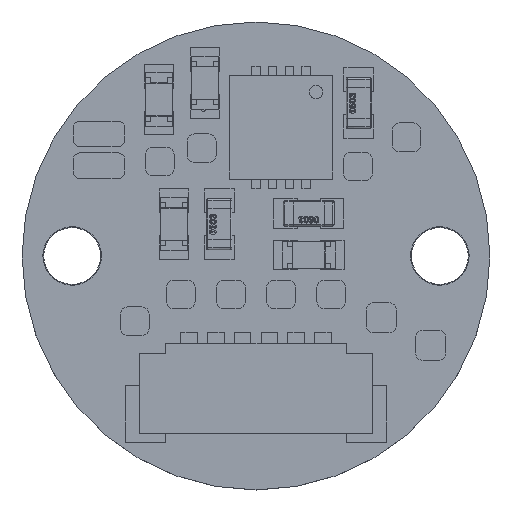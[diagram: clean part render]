
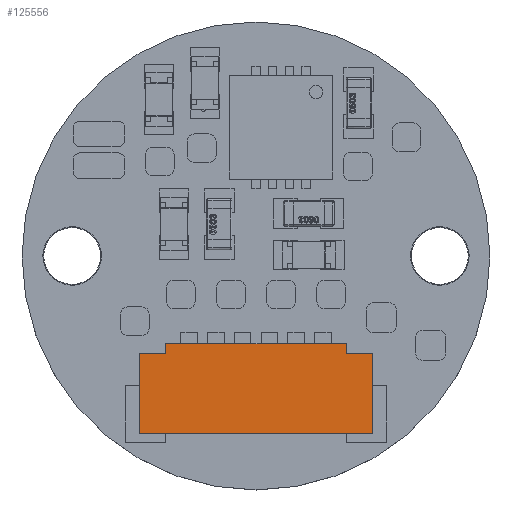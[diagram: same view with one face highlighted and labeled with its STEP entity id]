
A CAD part, top view. The second image highlights one B-rep face of the part: STEP entity #125556.
In plain terms, the highlighted planar face has unit normal (0, 0, 1).
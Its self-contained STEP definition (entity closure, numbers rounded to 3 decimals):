
#66 = DIRECTION ( 'NONE',  ( 0., 1., 0. ) ) ;
#4247 = CARTESIAN_POINT ( 'NONE',  ( 7.45, -13.875, 1.75 ) ) ;
#4322 = DIRECTION ( 'NONE',  ( 0., -1., 0. ) ) ;
#5107 = EDGE_CURVE ( 'NONE', #62237, #58807, #82916, .T. ) ;
#7402 = CARTESIAN_POINT ( 'NONE',  ( 14.45, -13.575, 1.75 ) ) ;
#8867 = CARTESIAN_POINT ( 'NONE',  ( 14.45, -13.575, 1.75 ) ) ;
#10582 = VERTEX_POINT ( 'NONE', #25018 ) ;
#13723 = CARTESIAN_POINT ( 'NONE',  ( 7.45, -13.875, 1.75 ) ) ;
#15739 = VECTOR ( 'NONE', #97182, 1000. ) ;
#25018 = CARTESIAN_POINT ( 'NONE',  ( 13.65, -13.875, 1.75 ) ) ;
#25513 = EDGE_CURVE ( 'NONE', #36888, #10582, #95767, .T. ) ;
#28658 = ORIENTED_EDGE ( 'NONE', *, *, #75448, .F. ) ;
#36888 = VERTEX_POINT ( 'NONE', #128892 ) ;
#38293 = CARTESIAN_POINT ( 'NONE',  ( 7.45, -16.275, 1.75 ) ) ;
#40313 = CARTESIAN_POINT ( 'NONE',  ( 7.45, -13.575, 1.75 ) ) ;
#42477 = CARTESIAN_POINT ( 'NONE',  ( 14.45, -13.875, 1.75 ) ) ;
#44070 = VECTOR ( 'NONE', #4322, 1000. ) ;
#44658 = CARTESIAN_POINT ( 'NONE',  ( 14.45, -16.275, 1.75 ) ) ;
#44696 = CARTESIAN_POINT ( 'NONE',  ( 8.25, -13.575, 1.75 ) ) ;
#47254 = LINE ( 'NONE', #44696, #50908 ) ;
#50908 = VECTOR ( 'NONE', #66, 1000. ) ;
#51711 = EDGE_CURVE ( 'NONE', #36888, #91141, #123534, .T. ) ;
#53384 = CARTESIAN_POINT ( 'NONE',  ( 8.25, -13.875, 1.75 ) ) ;
#54111 = DIRECTION ( 'NONE',  ( -1., 0., 0. ) ) ;
#56582 = PLANE ( 'NONE',  #96502 ) ;
#56939 = VERTEX_POINT ( 'NONE', #42477 ) ;
#58807 = VERTEX_POINT ( 'NONE', #53384 ) ;
#60387 = LINE ( 'NONE', #40313, #44070 ) ;
#62143 = VERTEX_POINT ( 'NONE', #44658 ) ;
#62237 = VERTEX_POINT ( 'NONE', #13723 ) ;
#62964 = VECTOR ( 'NONE', #100216, 1000. ) ;
#63114 = ORIENTED_EDGE ( 'NONE', *, *, #136184, .T. ) ;
#64124 = ORIENTED_EDGE ( 'NONE', *, *, #123017, .F. ) ;
#68284 = DIRECTION ( 'NONE',  ( 1., 0., 0. ) ) ;
#69109 = FACE_OUTER_BOUND ( 'NONE', #92775, .T. ) ;
#69304 = EDGE_CURVE ( 'NONE', #10582, #56939, #129629, .T. ) ;
#71780 = CARTESIAN_POINT ( 'NONE',  ( 14.45, -13.575, 1.75 ) ) ;
#75448 = EDGE_CURVE ( 'NONE', #58807, #91141, #47254, .T. ) ;
#75897 = VECTOR ( 'NONE', #102143, 1000. ) ;
#76508 = EDGE_CURVE ( 'NONE', #56939, #62143, #106737, .T. ) ;
#78884 = ORIENTED_EDGE ( 'NONE', *, *, #25513, .F. ) ;
#79155 = ORIENTED_EDGE ( 'NONE', *, *, #5107, .F. ) ;
#82848 = DIRECTION ( 'NONE',  ( 1., 0., 0. ) ) ;
#82916 = LINE ( 'NONE', #4247, #62964 ) ;
#82999 = DIRECTION ( 'NONE',  ( 0., -1., 0. ) ) ;
#91141 = VERTEX_POINT ( 'NONE', #130434 ) ;
#92562 = CARTESIAN_POINT ( 'NONE',  ( 14.45, -13.875, 1.75 ) ) ;
#92775 = EDGE_LOOP ( 'NONE', ( #97450, #117506, #78884, #141318, #28658, #79155, #63114, #64124 ) ) ;
#95767 = LINE ( 'NONE', #128197, #133906 ) ;
#96502 = AXIS2_PLACEMENT_3D ( 'NONE', #8867, #124699, #68284 ) ;
#97182 = DIRECTION ( 'NONE',  ( 0., -1., 0. ) ) ;
#97450 = ORIENTED_EDGE ( 'NONE', *, *, #76508, .F. ) ;
#98817 = VECTOR ( 'NONE', #82848, 1000. ) ;
#100216 = DIRECTION ( 'NONE',  ( 1., 0., 0. ) ) ;
#102143 = DIRECTION ( 'NONE',  ( -1., 0., 0. ) ) ;
#104547 = VERTEX_POINT ( 'NONE', #38293 ) ;
#106737 = LINE ( 'NONE', #71780, #15739 ) ;
#115979 = LINE ( 'NONE', #147395, #75897 ) ;
#117506 = ORIENTED_EDGE ( 'NONE', *, *, #69304, .F. ) ;
#123017 = EDGE_CURVE ( 'NONE', #62143, #104547, #115979, .T. ) ;
#123534 = LINE ( 'NONE', #7402, #125298 ) ;
#124699 = DIRECTION ( 'NONE',  ( 0., 0., -1. ) ) ;
#125298 = VECTOR ( 'NONE', #54111, 1000. ) ;
#125556 = ADVANCED_FACE ( 'NONE', ( #69109 ), #56582, .F. ) ;
#128197 = CARTESIAN_POINT ( 'NONE',  ( 13.65, -13.575, 1.75 ) ) ;
#128892 = CARTESIAN_POINT ( 'NONE',  ( 13.65, -13.575, 1.75 ) ) ;
#129629 = LINE ( 'NONE', #92562, #98817 ) ;
#130434 = CARTESIAN_POINT ( 'NONE',  ( 8.25, -13.575, 1.75 ) ) ;
#133906 = VECTOR ( 'NONE', #82999, 1000. ) ;
#136184 = EDGE_CURVE ( 'NONE', #62237, #104547, #60387, .T. ) ;
#141318 = ORIENTED_EDGE ( 'NONE', *, *, #51711, .T. ) ;
#147395 = CARTESIAN_POINT ( 'NONE',  ( 14.45, -16.275, 1.75 ) ) ;
